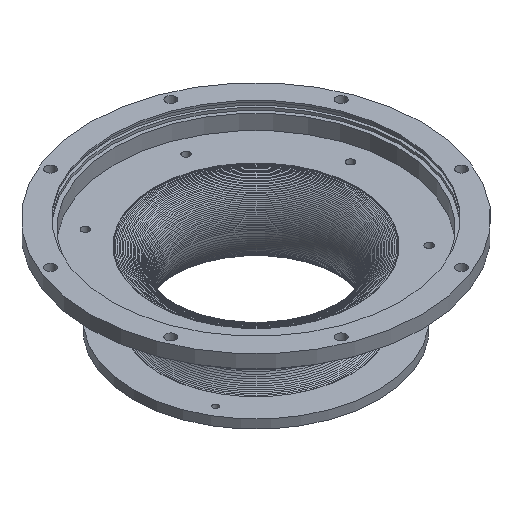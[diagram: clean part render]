
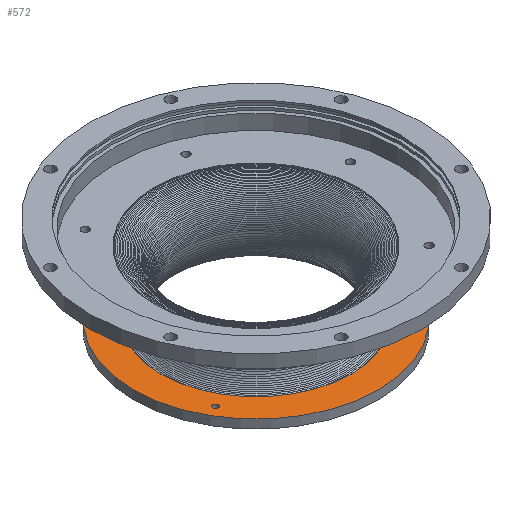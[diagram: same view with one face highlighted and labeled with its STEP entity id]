
A CAD part, isometric view. The second image highlights one B-rep face of the part: STEP entity #572.
In plain terms, the highlighted planar face has unit normal (0, 0, 1).
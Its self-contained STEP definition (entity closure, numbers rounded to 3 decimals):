
#126 = CYLINDRICAL_SURFACE('',#127,56.);
#127 = AXIS2_PLACEMENT_3D('',#128,#129,#130);
#128 = CARTESIAN_POINT('',(0.,0.,0.));
#129 = DIRECTION('',(-0.,-0.,-1.));
#130 = DIRECTION('',(1.,0.,0.));
#161 = CYLINDRICAL_SURFACE('',#162,1.25);
#162 = AXIS2_PLACEMENT_3D('',#163,#164,#165);
#163 = CARTESIAN_POINT('',(-43.734,-25.25,-1.));
#164 = DIRECTION('',(-0.,-0.,-1.));
#165 = DIRECTION('',(1.,0.,0.));
#199 = CYLINDRICAL_SURFACE('',#200,1.25);
#200 = AXIS2_PLACEMENT_3D('',#201,#202,#203);
#201 = CARTESIAN_POINT('',(43.734,-25.25,-1.));
#202 = DIRECTION('',(-0.,-0.,-1.));
#203 = DIRECTION('',(1.,0.,0.));
#234 = CYLINDRICAL_SURFACE('',#235,1.25);
#235 = AXIS2_PLACEMENT_3D('',#236,#237,#238);
#236 = CARTESIAN_POINT('',(0.,50.5,-1.));
#237 = DIRECTION('',(-0.,-0.,-1.));
#238 = DIRECTION('',(1.,0.,0.));
#305 = VERTEX_POINT('',#306);
#306 = CARTESIAN_POINT('',(56.,0.,4.));
#327 = EDGE_CURVE('',#305,#305,#328,.T.);
#328 = SURFACE_CURVE('',#329,(#334,#341),.PCURVE_S1.);
#329 = CIRCLE('',#330,56.);
#330 = AXIS2_PLACEMENT_3D('',#331,#332,#333);
#331 = CARTESIAN_POINT('',(0.,0.,4.));
#332 = DIRECTION('',(0.,0.,1.));
#333 = DIRECTION('',(1.,0.,0.));
#334 = PCURVE('',#126,#335);
#335 = DEFINITIONAL_REPRESENTATION('',(#336),#340);
#336 = LINE('',#337,#338);
#337 = CARTESIAN_POINT('',(-0.,-4.));
#338 = VECTOR('',#339,1.);
#339 = DIRECTION('',(-1.,0.));
#340 = ( GEOMETRIC_REPRESENTATION_CONTEXT(2) 
PARAMETRIC_REPRESENTATION_CONTEXT() REPRESENTATION_CONTEXT('2D SPACE',''
  ) );
#341 = PCURVE('',#342,#347);
#342 = PLANE('',#343);
#343 = AXIS2_PLACEMENT_3D('',#344,#345,#346);
#344 = CARTESIAN_POINT('',(0.,0.,4.));
#345 = DIRECTION('',(0.,0.,1.));
#346 = DIRECTION('',(1.,0.,-0.));
#347 = DEFINITIONAL_REPRESENTATION('',(#348),#352);
#348 = CIRCLE('',#349,56.);
#349 = AXIS2_PLACEMENT_2D('',#350,#351);
#350 = CARTESIAN_POINT('',(0.,0.));
#351 = DIRECTION('',(1.,0.));
#352 = ( GEOMETRIC_REPRESENTATION_CONTEXT(2) 
PARAMETRIC_REPRESENTATION_CONTEXT() REPRESENTATION_CONTEXT('2D SPACE',''
  ) );
#361 = VERTEX_POINT('',#362);
#362 = CARTESIAN_POINT('',(-42.484,-25.25,4.));
#383 = EDGE_CURVE('',#361,#361,#384,.T.);
#384 = SURFACE_CURVE('',#385,(#390,#397),.PCURVE_S1.);
#385 = CIRCLE('',#386,1.25);
#386 = AXIS2_PLACEMENT_3D('',#387,#388,#389);
#387 = CARTESIAN_POINT('',(-43.734,-25.25,4.));
#388 = DIRECTION('',(0.,0.,-1.));
#389 = DIRECTION('',(1.,0.,0.));
#390 = PCURVE('',#161,#391);
#391 = DEFINITIONAL_REPRESENTATION('',(#392),#396);
#392 = LINE('',#393,#394);
#393 = CARTESIAN_POINT('',(-6.283,-5.));
#394 = VECTOR('',#395,1.);
#395 = DIRECTION('',(1.,-0.));
#396 = ( GEOMETRIC_REPRESENTATION_CONTEXT(2) 
PARAMETRIC_REPRESENTATION_CONTEXT() REPRESENTATION_CONTEXT('2D SPACE',''
  ) );
#397 = PCURVE('',#342,#398);
#398 = DEFINITIONAL_REPRESENTATION('',(#399),#407);
#399 = ( BOUNDED_CURVE() B_SPLINE_CURVE(2,(#400,#401,#402,#403,#404,#405
,#406),.UNSPECIFIED.,.T.,.F.) B_SPLINE_CURVE_WITH_KNOTS((1,2,2,2,2,1),(
    -2.094,0.,2.094,4.189,6.283,
8.378),.UNSPECIFIED.) CURVE() GEOMETRIC_REPRESENTATION_ITEM() 
RATIONAL_B_SPLINE_CURVE((1.,0.5,1.,0.5,1.,0.5,1.)) REPRESENTATION_ITEM(
  '') );
#400 = CARTESIAN_POINT('',(-42.484,-25.25));
#401 = CARTESIAN_POINT('',(-42.484,-27.415));
#402 = CARTESIAN_POINT('',(-44.359,-26.333));
#403 = CARTESIAN_POINT('',(-46.234,-25.25));
#404 = CARTESIAN_POINT('',(-44.359,-24.167));
#405 = CARTESIAN_POINT('',(-42.484,-23.085));
#406 = CARTESIAN_POINT('',(-42.484,-25.25));
#407 = ( GEOMETRIC_REPRESENTATION_CONTEXT(2) 
PARAMETRIC_REPRESENTATION_CONTEXT() REPRESENTATION_CONTEXT('2D SPACE',''
  ) );
#415 = VERTEX_POINT('',#416);
#416 = CARTESIAN_POINT('',(44.984,-25.25,4.));
#437 = EDGE_CURVE('',#415,#415,#438,.T.);
#438 = SURFACE_CURVE('',#439,(#444,#451),.PCURVE_S1.);
#439 = CIRCLE('',#440,1.25);
#440 = AXIS2_PLACEMENT_3D('',#441,#442,#443);
#441 = CARTESIAN_POINT('',(43.734,-25.25,4.));
#442 = DIRECTION('',(0.,0.,-1.));
#443 = DIRECTION('',(1.,0.,0.));
#444 = PCURVE('',#199,#445);
#445 = DEFINITIONAL_REPRESENTATION('',(#446),#450);
#446 = LINE('',#447,#448);
#447 = CARTESIAN_POINT('',(-6.283,-5.));
#448 = VECTOR('',#449,1.);
#449 = DIRECTION('',(1.,-0.));
#450 = ( GEOMETRIC_REPRESENTATION_CONTEXT(2) 
PARAMETRIC_REPRESENTATION_CONTEXT() REPRESENTATION_CONTEXT('2D SPACE',''
  ) );
#451 = PCURVE('',#342,#452);
#452 = DEFINITIONAL_REPRESENTATION('',(#453),#461);
#453 = ( BOUNDED_CURVE() B_SPLINE_CURVE(2,(#454,#455,#456,#457,#458,#459
,#460),.UNSPECIFIED.,.T.,.F.) B_SPLINE_CURVE_WITH_KNOTS((1,2,2,2,2,1),(
    -2.094,0.,2.094,4.189,6.283,
8.378),.UNSPECIFIED.) CURVE() GEOMETRIC_REPRESENTATION_ITEM() 
RATIONAL_B_SPLINE_CURVE((1.,0.5,1.,0.5,1.,0.5,1.)) REPRESENTATION_ITEM(
  '') );
#454 = CARTESIAN_POINT('',(44.984,-25.25));
#455 = CARTESIAN_POINT('',(44.984,-27.415));
#456 = CARTESIAN_POINT('',(43.109,-26.333));
#457 = CARTESIAN_POINT('',(41.234,-25.25));
#458 = CARTESIAN_POINT('',(43.109,-24.167));
#459 = CARTESIAN_POINT('',(44.984,-23.085));
#460 = CARTESIAN_POINT('',(44.984,-25.25));
#461 = ( GEOMETRIC_REPRESENTATION_CONTEXT(2) 
PARAMETRIC_REPRESENTATION_CONTEXT() REPRESENTATION_CONTEXT('2D SPACE',''
  ) );
#469 = VERTEX_POINT('',#470);
#470 = CARTESIAN_POINT('',(1.25,50.5,4.));
#491 = EDGE_CURVE('',#469,#469,#492,.T.);
#492 = SURFACE_CURVE('',#493,(#498,#505),.PCURVE_S1.);
#493 = CIRCLE('',#494,1.25);
#494 = AXIS2_PLACEMENT_3D('',#495,#496,#497);
#495 = CARTESIAN_POINT('',(0.,50.5,4.));
#496 = DIRECTION('',(0.,0.,-1.));
#497 = DIRECTION('',(1.,0.,0.));
#498 = PCURVE('',#234,#499);
#499 = DEFINITIONAL_REPRESENTATION('',(#500),#504);
#500 = LINE('',#501,#502);
#501 = CARTESIAN_POINT('',(-6.283,-5.));
#502 = VECTOR('',#503,1.);
#503 = DIRECTION('',(1.,-0.));
#504 = ( GEOMETRIC_REPRESENTATION_CONTEXT(2) 
PARAMETRIC_REPRESENTATION_CONTEXT() REPRESENTATION_CONTEXT('2D SPACE',''
  ) );
#505 = PCURVE('',#342,#506);
#506 = DEFINITIONAL_REPRESENTATION('',(#507),#515);
#507 = ( BOUNDED_CURVE() B_SPLINE_CURVE(2,(#508,#509,#510,#511,#512,#513
,#514),.UNSPECIFIED.,.T.,.F.) B_SPLINE_CURVE_WITH_KNOTS((1,2,2,2,2,1),(
    -2.094,0.,2.094,4.189,6.283,
8.378),.UNSPECIFIED.) CURVE() GEOMETRIC_REPRESENTATION_ITEM() 
RATIONAL_B_SPLINE_CURVE((1.,0.5,1.,0.5,1.,0.5,1.)) REPRESENTATION_ITEM(
  '') );
#508 = CARTESIAN_POINT('',(1.25,50.5));
#509 = CARTESIAN_POINT('',(1.25,48.335));
#510 = CARTESIAN_POINT('',(-0.625,49.417));
#511 = CARTESIAN_POINT('',(-2.5,50.5));
#512 = CARTESIAN_POINT('',(-0.625,51.583));
#513 = CARTESIAN_POINT('',(1.25,52.665));
#514 = CARTESIAN_POINT('',(1.25,50.5));
#515 = ( GEOMETRIC_REPRESENTATION_CONTEXT(2) 
PARAMETRIC_REPRESENTATION_CONTEXT() REPRESENTATION_CONTEXT('2D SPACE',''
  ) );
#572 = ADVANCED_FACE('',(#573,#576,#579,#582,#613),#342,.T.);
#573 = FACE_BOUND('',#574,.T.);
#574 = EDGE_LOOP('',(#575));
#575 = ORIENTED_EDGE('',*,*,#327,.T.);
#576 = FACE_BOUND('',#577,.T.);
#577 = EDGE_LOOP('',(#578));
#578 = ORIENTED_EDGE('',*,*,#383,.T.);
#579 = FACE_BOUND('',#580,.T.);
#580 = EDGE_LOOP('',(#581));
#581 = ORIENTED_EDGE('',*,*,#437,.T.);
#582 = FACE_BOUND('',#583,.T.);
#583 = EDGE_LOOP('',(#584));
#584 = ORIENTED_EDGE('',*,*,#585,.F.);
#585 = EDGE_CURVE('',#586,#586,#588,.T.);
#586 = VERTEX_POINT('',#587);
#587 = CARTESIAN_POINT('',(43.5,0.,4.));
#588 = SURFACE_CURVE('',#589,(#594,#601),.PCURVE_S1.);
#589 = CIRCLE('',#590,43.5);
#590 = AXIS2_PLACEMENT_3D('',#591,#592,#593);
#591 = CARTESIAN_POINT('',(0.,0.,4.));
#592 = DIRECTION('',(0.,0.,1.));
#593 = DIRECTION('',(1.,0.,0.));
#594 = PCURVE('',#342,#595);
#595 = DEFINITIONAL_REPRESENTATION('',(#596),#600);
#596 = CIRCLE('',#597,43.5);
#597 = AXIS2_PLACEMENT_2D('',#598,#599);
#598 = CARTESIAN_POINT('',(0.,0.));
#599 = DIRECTION('',(1.,0.));
#600 = ( GEOMETRIC_REPRESENTATION_CONTEXT(2) 
PARAMETRIC_REPRESENTATION_CONTEXT() REPRESENTATION_CONTEXT('2D SPACE',''
  ) );
#601 = PCURVE('',#602,#607);
#602 = CYLINDRICAL_SURFACE('',#603,43.5);
#603 = AXIS2_PLACEMENT_3D('',#604,#605,#606);
#604 = CARTESIAN_POINT('',(0.,0.,0.));
#605 = DIRECTION('',(-0.,-0.,-1.));
#606 = DIRECTION('',(1.,0.,0.));
#607 = DEFINITIONAL_REPRESENTATION('',(#608),#612);
#608 = LINE('',#609,#610);
#609 = CARTESIAN_POINT('',(-0.,-4.));
#610 = VECTOR('',#611,1.);
#611 = DIRECTION('',(-1.,0.));
#612 = ( GEOMETRIC_REPRESENTATION_CONTEXT(2) 
PARAMETRIC_REPRESENTATION_CONTEXT() REPRESENTATION_CONTEXT('2D SPACE',''
  ) );
#613 = FACE_BOUND('',#614,.T.);
#614 = EDGE_LOOP('',(#615));
#615 = ORIENTED_EDGE('',*,*,#491,.T.);
